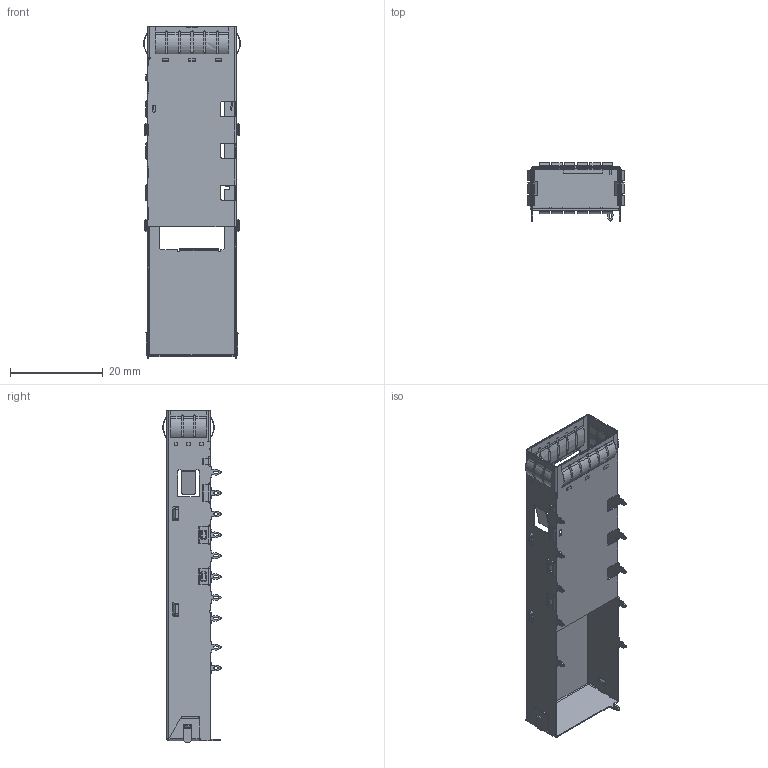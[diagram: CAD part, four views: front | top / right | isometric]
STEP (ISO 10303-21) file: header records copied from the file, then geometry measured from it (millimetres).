
FILE_DESCRIPTION(/* description */ (''),/* implementation_level */ '2;1');
FILE_NAME(/* name */ 'QSFP-DD 1X1 压接脚 后1脚 顶部开孔.stp',/* time_stamp */ '2026-08-29T15:06:15+08:00',/* author */ (''),/* organization */ (''),/* preprocessor_version */ 'ST-DEVELOPER v16.7',/* originating_system */ 'SIEMENS PLM Software NX 1847',/* authorisation */ '');
FILE_SCHEMA (('AUTOMOTIVE_DESIGN { 1 0 10303 214 3 1 1 1 }'));
Length unit declared in the file: millimetre
Products named in the file (1): Admi29F470BBiemd
Bounding box: 20.82 x 12.58 x 71.53 mm (x, y, z)
Volume: 808.1 mm3; surface area: 7223.7 mm2
Topology: 1 solids, 1 shells, 1569 faces, 4248 edges, 2602 vertices
Faces by surface type: plane 783, cylinder 707, bspline 63, sphere 16
Entity records: 53262 total; most frequent: CARTESIAN_POINT 13365, ORIENTED_EDGE 8464, DIRECTION 8456, EDGE_CURVE 4232, AXIS2_PLACEMENT_3D 2979, VERTEX_POINT 2602, LINE 2498, VECTOR 2498
